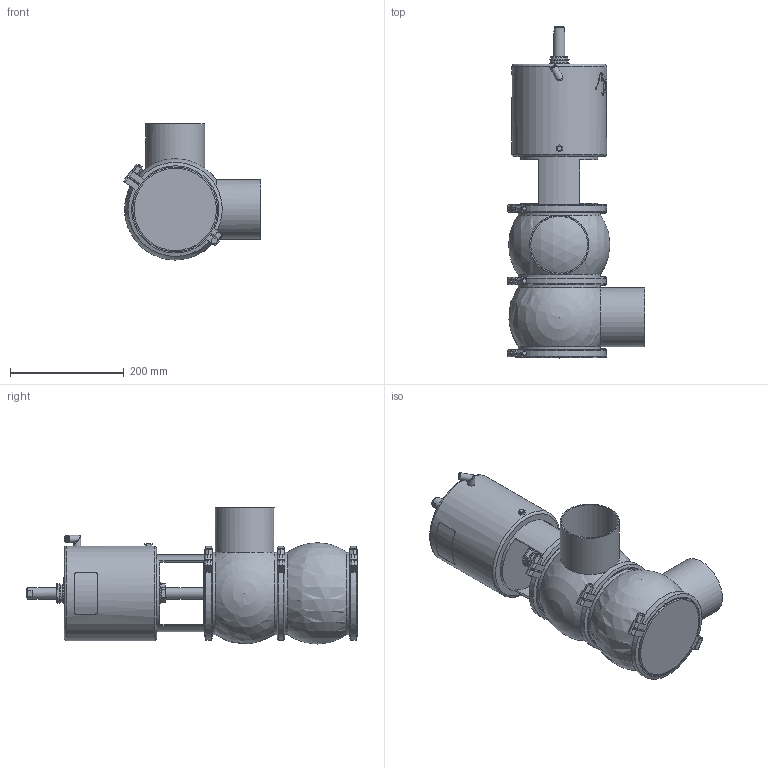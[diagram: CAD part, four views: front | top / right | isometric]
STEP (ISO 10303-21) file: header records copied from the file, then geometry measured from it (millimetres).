
FILE_DESCRIPTION (( 'STEP AP214' ), '1' );
FILE_NAME ('INNOVA M D W DIN 100 T4 AS NC_10.241.16.0010.STEP', '2024-08-07T07:56:48', ( '' ), ( '' ), 'SwSTEP 2.0', 'SolidWorks 2023', '' );
FILE_SCHEMA (( 'AUTOMOTIVE_DESIGN' ));
Length unit declared in the file: millimetre
Products named in the file (6): 10.240.15.0006_DIN 100; 10.240.15.0010_DN 100; 10.241.15.0001_DIN 100; 10.240.15.0001_DN 100; 10.240.15.0014_T4 AS P180; INNOVA M D W DIN 100 T4 AS NC_10.241.16.0010
Assembly tree (8 placements, depth 2):
  INNOVA M D W DIN 100 T4 AS NC_10.241.16.0010
    10.240.15.0006_DIN 100  x2
    10.240.15.0010_DN 100
    10.240.15.0014_T4 AS P180
    10.240.15.0001_DN 100  x3
    10.241.15.0001_DIN 100
Bounding box: 241.26 x 582.5 x 239 mm (x, y, z)
Volume: 9578492.7 mm3; surface area: 678981.8 mm2
Topology: 9 solids, 9 shells, 459 faces, 1223 edges, 797 vertices
Faces by surface type: plane 225, cylinder 110, bspline 80, cone 36, sphere 4, torus 4
Full cylindrical faces by diameter (mm): 6.15 x1, 8 x7, 8.5 x1, 10.5 x1, 12.5 x3, 16 x1, 20 x2, 31 x1, 34.5 x2, 36.5 x1, 100 x2, 104 x2, 135 x1, 144.5 x5, 156.5 x6, 166 x1
Entity records: 20404 total; most frequent: CARTESIAN_POINT 11283, ORIENTED_EDGE 1598, DIRECTION 1207, EDGE_CURVE 799, VERTEX_POINT 548, AXIS2_PLACEMENT_3D 459, EDGE_LOOP 397, FACE_OUTER_BOUND 359
